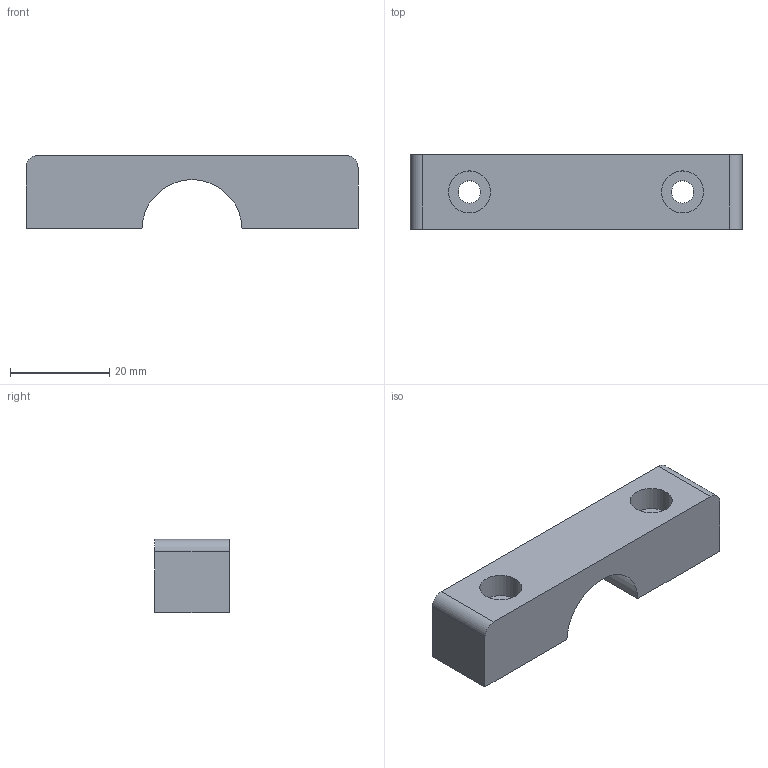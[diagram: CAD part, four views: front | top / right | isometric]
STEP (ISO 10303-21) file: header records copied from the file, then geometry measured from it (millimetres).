
FILE_DESCRIPTION(('FreeCAD Model'),'2;1');
FILE_NAME('Open CASCADE Shape Model','2025-01-22T14:14:03',(''),(''), 'Open CASCADE STEP processor 7.6','FreeCAD','Unknown');
FILE_SCHEMA(('AUTOMOTIVE_DESIGN { 1 0 10303 214 1 1 1 1 }'));
Length unit declared in the file: millimetre
Products named in the file (1): Body
Bounding box: 67 x 15 x 14.8 mm (x, y, z)
Volume: 11611.6 mm3; surface area: 4734.8 mm2
Topology: 1 solids, 1 shells, 16 faces, 36 edges, 24 vertices
Faces by surface type: plane 9, cylinder 7
Full cylindrical faces by diameter (mm): 4.5 x2, 8.5 x2
Entity records: 484 total; most frequent: DIRECTION 84, CARTESIAN_POINT 77, ORIENTED_EDGE 72, EDGE_CURVE 36, AXIS2_PLACEMENT_3D 31, VERTEX_POINT 24, FACE_BOUND 22, EDGE_LOOP 22
